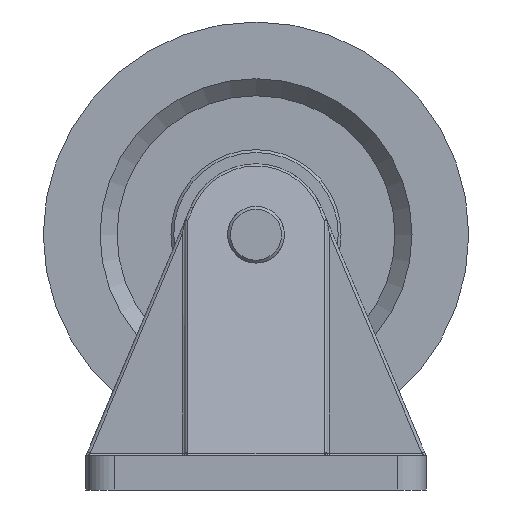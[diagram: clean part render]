
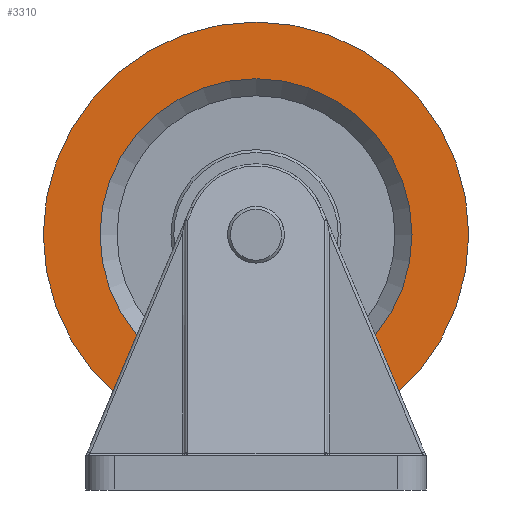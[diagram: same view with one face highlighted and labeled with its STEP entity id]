
A CAD part, left-side view. The second image highlights one B-rep face of the part: STEP entity #3310.
In plain terms, the highlighted planar face has unit normal (-1, 0, 0).
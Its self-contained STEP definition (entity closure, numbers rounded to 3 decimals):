
#148=FACE_BOUND('',#665,.T.);
#255=PLANE('',#3898);
#454=FACE_OUTER_BOUND('',#664,.T.);
#664=EDGE_LOOP('',(#2828,#2829));
#665=EDGE_LOOP('',(#2830,#2831));
#871=CIRCLE('',#3867,75.);
#872=CIRCLE('',#3868,75.);
#890=CIRCLE('',#3896,55.);
#891=CIRCLE('',#3897,55.);
#1534=VERTEX_POINT('',#6756);
#1535=VERTEX_POINT('',#6758);
#1553=VERTEX_POINT('',#6811);
#1554=VERTEX_POINT('',#6813);
#1984=EDGE_CURVE('',#1534,#1535,#871,.T.);
#1985=EDGE_CURVE('',#1535,#1534,#872,.T.);
#2010=EDGE_CURVE('',#1554,#1553,#890,.T.);
#2011=EDGE_CURVE('',#1553,#1554,#891,.T.);
#2828=ORIENTED_EDGE('',*,*,#1985,.F.);
#2829=ORIENTED_EDGE('',*,*,#1984,.F.);
#2830=ORIENTED_EDGE('',*,*,#2010,.T.);
#2831=ORIENTED_EDGE('',*,*,#2011,.T.);
#3310=ADVANCED_FACE('',(#454,#148),#255,.T.);
#3867=AXIS2_PLACEMENT_3D('',#6759,#4739,#4740);
#3868=AXIS2_PLACEMENT_3D('',#6760,#4741,#4742);
#3896=AXIS2_PLACEMENT_3D('',#6814,#4804,#4805);
#3897=AXIS2_PLACEMENT_3D('',#6815,#4806,#4807);
#3898=AXIS2_PLACEMENT_3D('',#6816,#4808,#4809);
#4739=DIRECTION('center_axis',(1.,0.,0.));
#4740=DIRECTION('ref_axis',(0.,0.,-1.));
#4741=DIRECTION('center_axis',(1.,0.,0.));
#4742=DIRECTION('ref_axis',(0.,0.,-1.));
#4804=DIRECTION('center_axis',(1.,0.,0.));
#4805=DIRECTION('ref_axis',(0.,0.,-1.));
#4806=DIRECTION('center_axis',(1.,0.,0.));
#4807=DIRECTION('ref_axis',(0.,0.,-1.));
#4808=DIRECTION('center_axis',(-1.,0.,0.));
#4809=DIRECTION('ref_axis',(0.,0.,1.));
#6756=CARTESIAN_POINT('',(-11.,-75.,0.));
#6758=CARTESIAN_POINT('',(-11.,75.,0.));
#6759=CARTESIAN_POINT('Origin',(-11.,0.,0.));
#6760=CARTESIAN_POINT('Origin',(-11.,0.,0.));
#6811=CARTESIAN_POINT('',(-11.,-55.,0.));
#6813=CARTESIAN_POINT('',(-11.,55.,0.));
#6814=CARTESIAN_POINT('Origin',(-11.,0.,0.));
#6815=CARTESIAN_POINT('Origin',(-11.,0.,0.));
#6816=CARTESIAN_POINT('Origin',(-11.,75.,0.));
